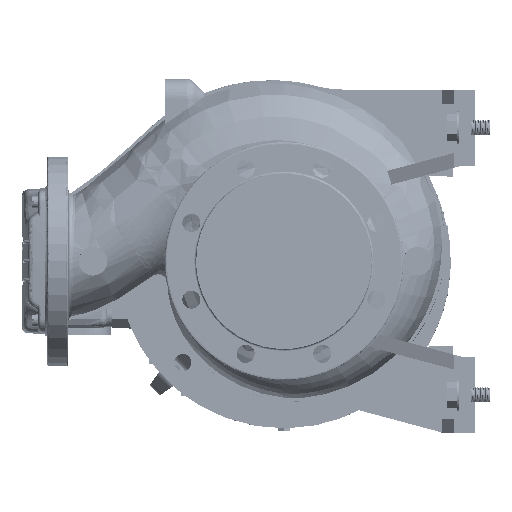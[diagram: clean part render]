
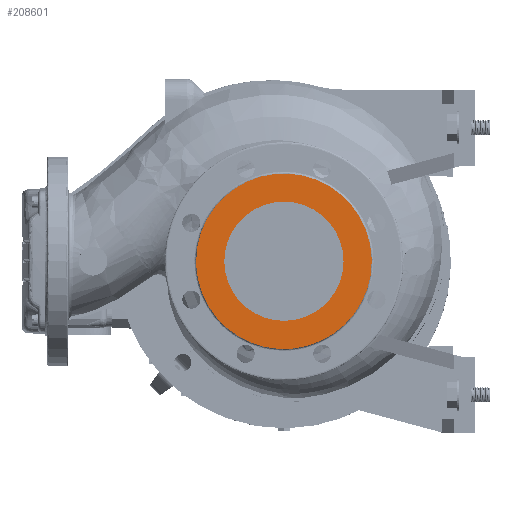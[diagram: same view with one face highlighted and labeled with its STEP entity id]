
A CAD part, left-side view. The second image highlights one B-rep face of the part: STEP entity #208601.
In plain terms, the highlighted planar face has unit normal (-1, 0, 0).
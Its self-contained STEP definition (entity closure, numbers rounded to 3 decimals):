
#4222 = CARTESIAN_POINT ( 'NONE',  ( -125., -92., 0. ) ) ;
#14545 = CARTESIAN_POINT ( 'NONE',  ( -125., 51.195, 76.618 ) ) ;
#15085 = VERTEX_POINT ( 'NONE', #99621 ) ;
#16603 = AXIS2_PLACEMENT_3D ( 'NONE', #166123, #243470, #147080 ) ;
#17027 = CARTESIAN_POINT ( 'NONE',  ( -125., -85.545, 35.434 ) ) ;
#19495 = CARTESIAN_POINT ( 'NONE',  ( -125., 88.18, 26.749 ) ) ;
#20812 = CIRCLE ( 'NONE', #150328, 62.5 ) ;
#24301 = CARTESIAN_POINT ( 'NONE',  ( -125., 0., -62.5 ) ) ;
#25022 = EDGE_LOOP ( 'NONE', ( #42418, #101014 ) ) ;
#35193 = CARTESIAN_POINT ( 'NONE',  ( -125., -65.473, -65.473 ) ) ;
#36024 = CARTESIAN_POINT ( 'NONE',  ( -125., -76.988, 51.442 ) ) ;
#37682 = CARTESIAN_POINT ( 'NONE',  ( -125., 51.195, -76.618 ) ) ;
#38544 = CARTESIAN_POINT ( 'NONE',  ( -125., 92., 3.009 ) ) ;
#38928 = AXIS2_PLACEMENT_3D ( 'NONE', #59657, #154861, #208208 ) ;
#42418 = ORIENTED_EDGE ( 'NONE', *, *, #162188, .F. ) ;
#44660 = CARTESIAN_POINT ( 'NONE',  ( -125., 0., 0. ) ) ;
#48646 = VERTEX_POINT ( 'NONE', #24301 ) ;
#50027 = CARTESIAN_POINT ( 'NONE',  ( -125., -92., 0. ) ) ;
#54254 = CARTESIAN_POINT ( 'NONE',  ( -125., -76.988, -51.442 ) ) ;
#55106 = CARTESIAN_POINT ( 'NONE',  ( -125., -51.442, 76.988 ) ) ;
#55559 = EDGE_CURVE ( 'NONE', #95095, #48646, #20812, .T. ) ;
#59657 = CARTESIAN_POINT ( 'NONE',  ( -125., -93.104, 93.203 ) ) ;
#61704 = CARTESIAN_POINT ( 'NONE',  ( -125., 85.133, -35.264 ) ) ;
#64922 = DIRECTION ( 'NONE',  ( -1., 0., 0. ) ) ;
#70757 = CARTESIAN_POINT ( 'NONE',  ( -125., 66.273, -64.149 ) ) ;
#71673 = EDGE_CURVE ( 'NONE', #48646, #95095, #85555, .T. ) ;
#74526 = CARTESIAN_POINT ( 'NONE',  ( -125., -18.064, -90.814 ) ) ;
#75756 = CARTESIAN_POINT ( 'NONE',  ( -125., 18.062, -90.815 ) ) ;
#79486 = CARTESIAN_POINT ( 'NONE',  ( -125., 90.377, -17.977 ) ) ;
#85555 = CIRCLE ( 'NONE', #16603, 62.5 ) ;
#87105 = B_SPLINE_CURVE_WITH_KNOTS ( 'NONE', 3,
 ( #193328, #38544, #152759, #188381, #19495, #249175, #115899, #110935, #96867, #131217, #14545, #91888, #169325, #208618, #112159, #170587, #228889, #55106, #209840, #36024, #17027, #94408, #171839, #4222 ),
 .UNSPECIFIED., .F., .F.,
 ( 4, 1, 1, 1, 1, 1, 1, 1, 1, 1, 1, 1, 1, 1, 1, 1, 1, 1, 1, 1, 1, 4 ),
 ( 0., 0.009, 0.018, 0.027, 0.036, 0.045, 0.059, 0.073, 0.082, 0.091, 0.1, 0.109, 0.127, 0.145, 0.163, 0.181, 0.199, 0.218, 0.236, 0.254, 0.272, 0.29 ),
 .UNSPECIFIED. ) ;
#91888 = CARTESIAN_POINT ( 'NONE',  ( -125., 43.438, 81.267 ) ) ;
#94408 = CARTESIAN_POINT ( 'NONE',  ( -125., -90.814, 18.064 ) ) ;
#95095 = VERTEX_POINT ( 'NONE', #192081 ) ;
#96013 = CARTESIAN_POINT ( 'NONE',  ( -125., -92., 0. ) ) ;
#96867 = CARTESIAN_POINT ( 'NONE',  ( -125., 66.273, 64.149 ) ) ;
#97260 = CARTESIAN_POINT ( 'NONE',  ( -125., 80.624, -44.798 ) ) ;
#98524 = CARTESIAN_POINT ( 'NONE',  ( -125., 92., 0. ) ) ;
#99621 = CARTESIAN_POINT ( 'NONE',  ( -125., 92., 0. ) ) ;
#101014 = ORIENTED_EDGE ( 'NONE', *, *, #178633, .F. ) ;
#110935 = CARTESIAN_POINT ( 'NONE',  ( -125., 74.163, 55.003 ) ) ;
#112159 = CARTESIAN_POINT ( 'NONE',  ( -125., 0.001, 92.593 ) ) ;
#112535 = CARTESIAN_POINT ( 'NONE',  ( -125., -51.442, -76.988 ) ) ;
#115899 = CARTESIAN_POINT ( 'NONE',  ( -125., 80.624, 44.798 ) ) ;
#116269 = CARTESIAN_POINT ( 'NONE',  ( -125., 91.704, -9.033 ) ) ;
#131217 = CARTESIAN_POINT ( 'NONE',  ( -125., 58.458, 71.231 ) ) ;
#134087 = CARTESIAN_POINT ( 'NONE',  ( -125., 32.548, -86.419 ) ) ;
#134562 = PLANE ( 'NONE',  #38928 ) ;
#139091 = CARTESIAN_POINT ( 'NONE',  ( -125., 92., -3.009 ) ) ;
#147080 = DIRECTION ( 'NONE',  ( 0., 0., 1. ) ) ;
#150328 = AXIS2_PLACEMENT_3D ( 'NONE', #44660, #64922, #162619 ) ;
#152374 = FACE_BOUND ( 'NONE', #202574, .T. ) ;
#152759 = CARTESIAN_POINT ( 'NONE',  ( -125., 91.704, 9.033 ) ) ;
#154861 = DIRECTION ( 'NONE',  ( 1., 0., 0. ) ) ;
#162188 = EDGE_CURVE ( 'NONE', #15085, #180828, #87105, .T. ) ;
#162619 = DIRECTION ( 'NONE',  ( 0., 0., 1. ) ) ;
#166123 = CARTESIAN_POINT ( 'NONE',  ( -125., 0., 0. ) ) ;
#169325 = CARTESIAN_POINT ( 'NONE',  ( -125., 32.548, 86.419 ) ) ;
#170587 = CARTESIAN_POINT ( 'NONE',  ( -125., -18.064, 90.814 ) ) ;
#170978 = CARTESIAN_POINT ( 'NONE',  ( -125., -35.434, -85.545 ) ) ;
#171839 = CARTESIAN_POINT ( 'NONE',  ( -125., -92., 6.021 ) ) ;
#173232 = ORIENTED_EDGE ( 'NONE', *, *, #71673, .F. ) ;
#173446 = CARTESIAN_POINT ( 'NONE',  ( -125., 58.458, -71.231 ) ) ;
#178633 = EDGE_CURVE ( 'NONE', #180828, #15085, #206154, .T. ) ;
#180828 = VERTEX_POINT ( 'NONE', #50027 ) ;
#188381 = CARTESIAN_POINT ( 'NONE',  ( -125., 90.377, 17.977 ) ) ;
#191715 = FACE_OUTER_BOUND ( 'NONE', #25022, .T. ) ;
#192081 = CARTESIAN_POINT ( 'NONE',  ( -125., 0., 62.5 ) ) ;
#193328 = CARTESIAN_POINT ( 'NONE',  ( -125., 92., 0. ) ) ;
#202574 = EDGE_LOOP ( 'NONE', ( #209863, #173232 ) ) ;
#206154 = B_SPLINE_CURVE_WITH_KNOTS ( 'NONE', 3,
 ( #96013, #209005, #228029, #249553, #54254, #35193, #112535, #170978, #74526, #229271, #75756, #134087, #211480, #37682, #173446, #70757, #231738, #97260, #61704, #250765, #79486, #116269, #139091, #98524 ),
 .UNSPECIFIED., .F., .F.,
 ( 4, 1, 1, 1, 1, 1, 1, 1, 1, 1, 1, 1, 1, 1, 1, 1, 1, 1, 1, 1, 1, 4 ),
 ( 0., 0.018, 0.036, 0.054, 0.072, 0.091, 0.109, 0.127, 0.145, 0.163, 0.181, 0.19, 0.199, 0.208, 0.217, 0.231, 0.244, 0.254, 0.263, 0.272, 0.281, 0.29 ),
 .UNSPECIFIED. ) ;
#208208 = DIRECTION ( 'NONE',  ( 0., 0., -1. ) ) ;
#208601 = ADVANCED_FACE ( 'NONE', ( #152374, #191715 ), #134562, .F. ) ;
#208618 = CARTESIAN_POINT ( 'NONE',  ( -125., 18.062, 90.815 ) ) ;
#209005 = CARTESIAN_POINT ( 'NONE',  ( -125., -92., -6.021 ) ) ;
#209840 = CARTESIAN_POINT ( 'NONE',  ( -125., -65.473, 65.473 ) ) ;
#209863 = ORIENTED_EDGE ( 'NONE', *, *, #55559, .F. ) ;
#211480 = CARTESIAN_POINT ( 'NONE',  ( -125., 43.438, -81.267 ) ) ;
#228029 = CARTESIAN_POINT ( 'NONE',  ( -125., -90.814, -18.064 ) ) ;
#228889 = CARTESIAN_POINT ( 'NONE',  ( -125., -35.434, 85.545 ) ) ;
#229271 = CARTESIAN_POINT ( 'NONE',  ( -125., 0.001, -92.593 ) ) ;
#231738 = CARTESIAN_POINT ( 'NONE',  ( -125., 74.163, -55.003 ) ) ;
#243470 = DIRECTION ( 'NONE',  ( -1., 0., 0. ) ) ;
#249175 = CARTESIAN_POINT ( 'NONE',  ( -125., 85.133, 35.264 ) ) ;
#249553 = CARTESIAN_POINT ( 'NONE',  ( -125., -85.545, -35.434 ) ) ;
#250765 = CARTESIAN_POINT ( 'NONE',  ( -125., 88.18, -26.749 ) ) ;
